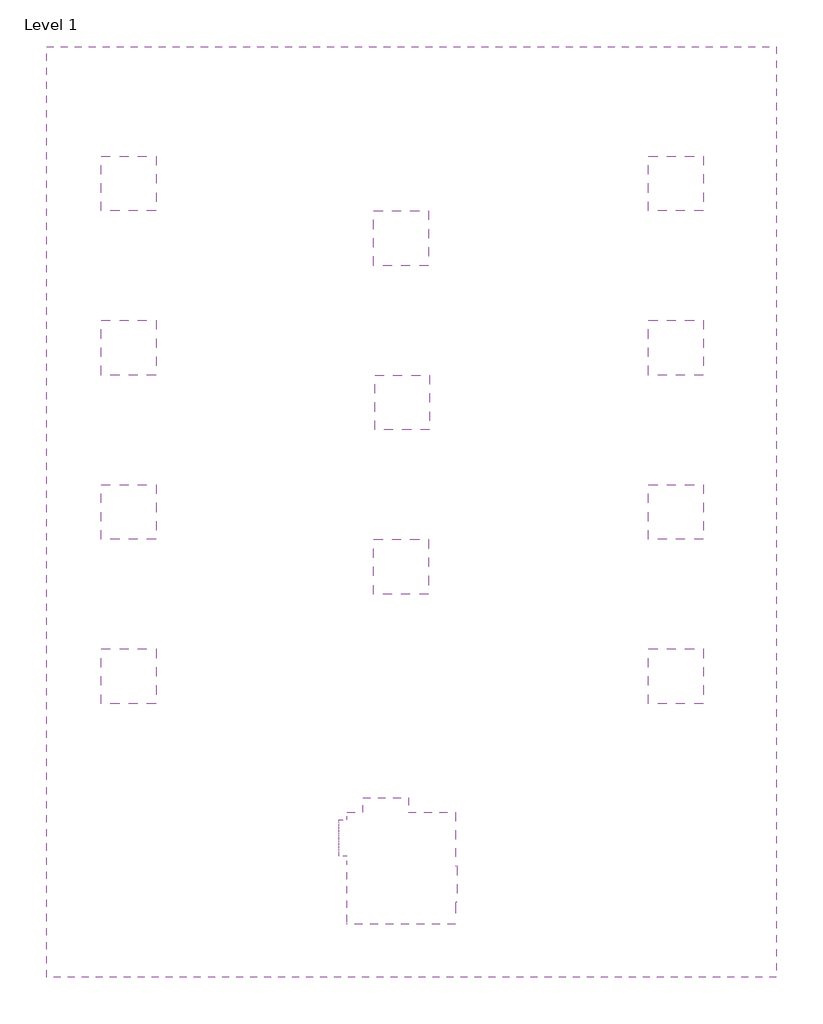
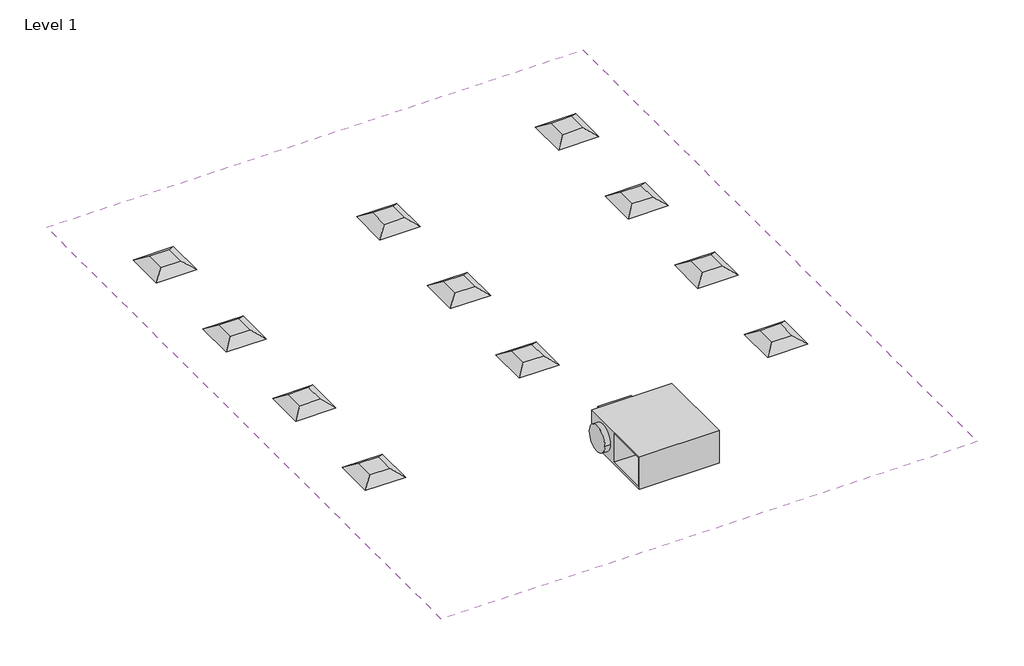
# One storey: 11 air terminals, 1 covering, 1 proxy.
"""IFC4 building model written with IfcOpenShell, lengths in millimetres."""

import ifcopenshell
import ifcopenshell.guid

model = None  # the IFC model being written
_history = None  # IfcOwnerHistory: only IFC2X3 demands one
_inside = {}  # id of a spatial element -> (the spatial element, [elements in it])
_under = {}  # id of a project, library or spatial element -> (it, [spatial elements below it])
_declared = {}  # id of a project -> (the project, [libraries it declares])
_typed = {}  # id of a type object -> (the type object, [elements of that type])
_made_of = {}  # id of a material, layer set ... -> (it, [elements and type objects made of it])


def new_model(schema):
    """Start an empty IFC model of exactly this schema.

    Asked for "IFC4X3", IfcOpenShell would pick the latest addendum, in which some entities
    have other attributes; the version numbers below select the first issue.
    IFC2X3 requires an IfcOwnerHistory on every rooted entity: one is made here for all.
    """
    global model, _history
    if schema == "IFC4X3":
        model = ifcopenshell.file(schema_version=(4, 3, 0, 0))
    else:
        model = ifcopenshell.file(schema=schema)
    _inside.clear()
    _under.clear()
    _declared.clear()
    _typed.clear()
    _made_of.clear()
    _history = None
    if model.schema == "IFC2X3":
        org = make("IfcOrganization", Name="unknown")
        user = make(
            "IfcPersonAndOrganization",
            ThePerson=make("IfcPerson", FamilyName="unknown"),
            TheOrganization=org,
        )
        app = make(
            "IfcApplication",
            ApplicationDeveloper=org,
            Version="unknown",
            ApplicationFullName="unknown",
            ApplicationIdentifier="unknown",
        )
        _history = make(
            "IfcOwnerHistory",
            OwningUser=user,
            OwningApplication=app,
            ChangeAction="ADDED",
            CreationDate=0,
        )
    return model


def make(cls, **values):
    """One entity of the class cls with the attributes given. An attribute that is None is left unset."""
    return model.create_entity(
        cls, **{name: value for name, value in values.items() if value is not None}
    )


def rooted(cls, **values):
    """An entity with a GlobalId (a new one), such as an element, a storey or a relation."""
    return make(cls, GlobalId=ifcopenshell.guid.new(), OwnerHistory=_history, **values)


def si_unit(unit_type, name, prefix=None):
    """IfcSIUnit, for example si_unit("LENGTHUNIT", "METRE", prefix="MILLI")."""
    return make("IfcSIUnit", UnitType=unit_type, Prefix=prefix, Name=name)


def assignment(units):
    """IfcUnitAssignment: the units of a project."""
    return None if units is None else make("IfcUnitAssignment", Units=units)


def point(xyz):
    """IfcCartesianPoint."""
    return None if xyz is None else make("IfcCartesianPoint", Coordinates=xyz)


def direction(xyz):
    """IfcDirection."""
    return None if xyz is None else make("IfcDirection", DirectionRatios=xyz)


def frame(location, z_axis=None, x_axis=None):
    """IfcAxis2Placement3D, a coordinate frame: its origin and axes. An axis left out is left unset."""
    return make(
        "IfcAxis2Placement3D",
        Location=point(location),
        Axis=direction(z_axis),
        RefDirection=direction(x_axis),
    )


def frame_2d(location, x_axis=None):
    """IfcAxis2Placement2D, a coordinate frame in the plane: its origin and x axis."""
    return make(
        "IfcAxis2Placement2D", Location=point(location), RefDirection=direction(x_axis)
    )


def origin():
    """The frame at (0, 0, 0) with its axes left unset."""
    return frame((0.0, 0.0, 0.0))


def place(relative_to, where):
    """IfcLocalPlacement: puts the frame where relative to a parent placement (None: the world)."""
    return make(
        "IfcLocalPlacement", PlacementRelTo=relative_to, RelativePlacement=where
    )


def context(
    kind, dimensions, precision=None, world=None, true_north=None, identifier=None
):
    """IfcGeometricRepresentationContext, for example the 3D "Model" context."""
    return make(
        "IfcGeometricRepresentationContext",
        ContextIdentifier=identifier,
        ContextType=kind,
        CoordinateSpaceDimension=dimensions,
        Precision=precision,
        WorldCoordinateSystem=world,
        TrueNorth=true_north,
    )


def project(units=None, contexts=None):
    """IfcProject with its units and contexts."""
    return rooted(
        "IfcProject",
        Name="project",
        RepresentationContexts=contexts,
        UnitsInContext=assignment(units),
    )


def spatial(cls, under=None, at=None, **own):
    """A site, building, storey or space (cls), placed at a placement, below another one or the project."""
    s = rooted(cls, ObjectPlacement=at, **own)
    if under is not None:
        _under.setdefault(under.id(), (under, []))[1].append(s)
    return s


def polyline(points):
    """IfcPolyline through the points."""
    return make("IfcPolyline", Points=[point(p) for p in points])


def circle_curve(where, radius):
    """IfcCircle in the frame where."""
    return make("IfcCircle", Position=where, Radius=radius)


def trimmed(basis, trim1, trim2, sense, master):
    """IfcTrimmedCurve: the piece of a basis curve between two trims."""
    return make(
        "IfcTrimmedCurve",
        BasisCurve=basis,
        Trim1=trim1,
        Trim2=trim2,
        SenseAgreement=sense,
        MasterRepresentation=master,
    )


def segment(curve, same_sense, transition):
    """IfcCompositeCurveSegment."""
    return make(
        "IfcCompositeCurveSegment",
        Transition=transition,
        SameSense=same_sense,
        ParentCurve=curve,
    )


def composite_curve(segments, self_intersect=None):
    """IfcCompositeCurve: segments joined end to end."""
    return make("IfcCompositeCurve", Segments=segments, SelfIntersect=self_intersect)


def outline(outer, holes=None, kind="AREA"):
    """IfcArbitraryClosedProfileDef: a profile drawn as a closed curve; with holes, ...WithVoids."""
    if holes is None:
        return make("IfcArbitraryClosedProfileDef", ProfileType=kind, OuterCurve=outer)
    return make(
        "IfcArbitraryProfileDefWithVoids",
        ProfileType=kind,
        OuterCurve=outer,
        InnerCurves=holes,
    )


def extrude(swept, where, along, depth):
    """IfcExtrudedAreaSolid: the profile swept, set in the frame where, extruded along a direction by depth."""
    return make(
        "IfcExtrudedAreaSolid",
        SweptArea=swept,
        Position=where,
        ExtrudedDirection=direction(along),
        Depth=depth,
    )


def faces_of(points, faces, orient=None, outer=None):
    """IfcFace entities. A face is a list of loops; a loop is a list of indices into points, from 0.

    orient and outer hold one flag for each loop. By default every Orientation is true, the
    first loop of a face is its IfcFaceOuterBound and the others are IfcFaceBound.
    """
    made = []
    for i, loops in enumerate(faces):
        bounds = []
        for j, loop in enumerate(loops):
            is_outer = j == 0 if outer is None else outer[i][j]
            bounds.append(
                make(
                    "IfcFaceOuterBound" if is_outer else "IfcFaceBound",
                    Bound=make("IfcPolyLoop", Polygon=[points[k] for k in loop]),
                    Orientation=True if orient is None else orient[i][j],
                )
            )
        made.append(make("IfcFace", Bounds=bounds))
    return made


def faceted_brep(points, faces, orient=None, outer=None, voids=None):
    """IfcFacetedBrep: a solid bounded by flat faces; with voids (closed shells), ...WithVoids."""
    shared = [point(p) for p in points]
    hull = make("IfcClosedShell", CfsFaces=faces_of(shared, faces, orient, outer))
    if voids is None:
        return make("IfcFacetedBrep", Outer=hull)
    return make(
        "IfcFacetedBrepWithVoids",
        Outer=hull,
        Voids=[
            make(cls, CfsFaces=faces_of(shared, fs, o, b)) for cls, fs, o, b in voids
        ],
    )


def shape(context_of_items, identifier, shape_type, items):
    """IfcShapeRepresentation: the items that make up one representation, for example the "Body"."""
    return make(
        "IfcShapeRepresentation",
        ContextOfItems=context_of_items,
        RepresentationIdentifier=identifier,
        RepresentationType=shape_type,
        Items=items,
    )


def source(mapping_origin, context_of_items, identifier, shape_type, items):
    """IfcRepresentationMap: a shape defined once, which mapped items show again and again."""
    return make(
        "IfcRepresentationMap",
        MappingOrigin=mapping_origin,
        MappedRepresentation=shape(context_of_items, identifier, shape_type, items),
    )


def transform(
    local_origin,
    x_axis=None,
    y_axis=None,
    z_axis=None,
    scale=None,
    scale2=None,
    scale3=None,
    uniform=True,
):
    """IfcCartesianTransformationOperator3D, or its non-uniform kind. x_axis, y_axis, z_axis: its Axis1, 2, 3."""
    if uniform:
        return make(
            "IfcCartesianTransformationOperator3D",
            Axis1=direction(x_axis),
            Axis2=direction(y_axis),
            LocalOrigin=point(local_origin),
            Scale=scale,
            Axis3=direction(z_axis),
        )
    return make(
        "IfcCartesianTransformationOperator3DnonUniform",
        Axis1=direction(x_axis),
        Axis2=direction(y_axis),
        LocalOrigin=point(local_origin),
        Scale=scale,
        Axis3=direction(z_axis),
        Scale2=scale2,
        Scale3=scale3,
    )


def mapped(mapping_source, mapping_target):
    """IfcMappedItem: shows the shape of a source again, moved by a transform."""
    return make(
        "IfcMappedItem", MappingSource=mapping_source, MappingTarget=mapping_target
    )


def made_of(thing, what):
    """Note that an element or type object is made of a material, layer set ...; save() writes the relation."""
    if what is not None:
        _made_of.setdefault(what.id(), (what, []))[1].append(thing)
    return thing


def element(
    cls,
    number,
    at=None,
    inside=None,
    cuts=None,
    type_object=None,
    material=None,
    context=None,
    identifier="Body",
    shape_type=None,
    held_by="IfcProductDefinitionShape",
    body=None,
    shapes=None,
    **own,
):
    """One element of the class cls, such as IfcWall. Its Tag is "e" and its number.

    at: its placement. inside: the storey or other place that contains it. cuts: it is an
    opening in that element (IfcRelVoidsElement). A single representation is given by context,
    identifier, shape_type and body (its items); several are given by shapes. held_by: the class
    of the entity that holds the representations. save() writes the other relations.
    """
    e = rooted(cls, Tag="e%d" % number, ObjectPlacement=at, **own)
    if body is not None:
        shapes = [shape(context, identifier, shape_type, body)]
    if shapes is not None:
        e.Representation = make(held_by, Representations=shapes)
    if inside is not None:
        _inside.setdefault(inside.id(), (inside, []))[1].append(e)
    if cuts is not None:
        rooted(
            "IfcRelVoidsElement", RelatingBuildingElement=cuts, RelatedOpeningElement=e
        )
    if type_object is not None:
        _typed.setdefault(type_object.id(), (type_object, []))[1].append(e)
    return made_of(e, material)


def aggregate(whole, parts):
    """IfcRelAggregates: a whole, such as a stair, and the parts it consists of."""
    return rooted("IfcRelAggregates", RelatingObject=whole, RelatedObjects=parts)


def save(model, path):
    """Write the relations noted so far, then the file.

    IfcRelAggregates (storeys below a building ...), IfcRelContainedInSpatialStructure (elements
    in a storey), IfcRelDefinesByType, IfcRelAssociatesMaterial and IfcRelDeclares: one each for
    every whole, place, type object, material and project.
    """
    for whole, parts in _under.values():
        aggregate(whole, parts)
    for where, things in _inside.values():
        rooted(
            "IfcRelContainedInSpatialStructure",
            RelatedElements=things,
            RelatingStructure=where,
        )
    for kind, things in _typed.values():
        rooted("IfcRelDefinesByType", RelatedObjects=things, RelatingType=kind)
    for what, things in _made_of.values():
        rooted("IfcRelAssociatesMaterial", RelatedObjects=things, RelatingMaterial=what)
    for by, libraries in _declared.values():
        rooted("IfcRelDeclares", RelatingContext=by, RelatedDefinitions=libraries)
    model.write(path)


def m_return_diffuser_600_x_600_face_300_x_300_connection_ff221211(model_context):
    return source(origin(), model_context, "Body", "Brep", [
        faceted_brep([(150.0, 150.0, 101.6), (-150.0, 150.0, 101.6), (-150.0, -150.0, 101.6), (150.0, -150.0, 101.6), (300.0, 300.0, 0.0), (300.0, -300.0, 0.0), (-300.0, -300.0, 0.0), (-300.0, 300.0, 0.0)], [[[0, 1, 2, 3]], [[4, 5, 6, 7]], [[4, 7, 1, 0]], [[7, 6, 2, 1]], [[6, 5, 3, 2]], [[5, 4, 0, 3]]]),
    ])


def m_vav_unit_parallel_fan_powered_size_6_400mm_inlet_587ab7bd(model_context):
    return source(origin(), model_context, "Body", "SolidModel", [
        extrude(outline(polyline([(610.0, 27.5), (610.0, -372.5), (519.1125, -372.5), (519.1125, 27.5), (610.0, 27.5)])), frame((0.0, 0.0, -175.0), z_axis=(0.0, 0.0, 1.0), x_axis=(1.0, 0.0, 0.0)), (0.0, 0.0, 1.0), 350.0),
        extrude(outline(polyline([(80.0, 612.5), (-420.0, 612.5), (-420.0, 772.5), (80.0, 772.5), (80.0, 612.5)])), frame((0.0, 0.0, -150.0), z_axis=(0.0, 0.0, 1.0), x_axis=(1.0, 0.0, 0.0)), (0.0, 0.0, 1.0), 300.0),
        extrude(outline(composite_curve([segment(trimmed(circle_curve(frame_2d((332.5, 0.0)), 200.0), [point((132.5, 0.0))], [point((532.5, 0.0))], False, "CARTESIAN"), True, "CONTINUOUS"), segment(trimmed(circle_curve(frame_2d((332.5, 0.0)), 200.0), [point((532.5, 0.0))], [point((132.5, 0.0))], False, "CARTESIAN"), True, "CONTINUOUS")], self_intersect=False)), frame((-680.0, 0.0, 0.0), z_axis=(1.0, 0.0, 0.0), x_axis=(0.0, 1.0, 0.0)), (0.0, 0.0, 1.0), 85.0),
        faceted_brep([(595.0, 612.5, 255.0), (-595.0, 612.5, 255.0), (-595.0, -612.5, 255.0), (595.0, -612.5, 255.0), (595.0, 612.5, -255.0), (595.0, -612.5, -255.0), (-595.0, -612.5, -255.0), (-595.0, 612.5, -255.0), (-595.0, -587.5, 222.5), (-595.0, -587.5, -222.5), (-595.0, 37.5, -222.5), (-595.0, 37.5, 222.5), (0.0, -587.5, 222.5), (0.0, 37.5, 222.5), (0.0, 37.5, -222.5), (0.0, -587.5, -222.5)], [[[0, 1, 2, 3]], [[4, 5, 6, 7]], [[1, 0, 4, 7]], [[2, 1, 7, 6], [8, 9, 10, 11]], [[3, 2, 6, 5]], [[0, 3, 5, 4]], [[12, 13, 14, 15]], [[12, 15, 9, 8]], [[15, 14, 10, 9]], [[14, 13, 11, 10]], [[13, 12, 8, 11]]]),
    ])


model = new_model("IFC4")

# Units and contexts
model_context = context("Model", 3, world=origin())
ifc_project = project(units=[si_unit("LENGTHUNIT", "METRE", prefix="MILLI")], contexts=[model_context])

# Site, building, storey
site = spatial("IfcSite", under=ifc_project)
building = spatial("IfcBuilding", under=site)
storey = spatial("IfcBuildingStorey", under=building, Name="Level 1", Elevation=0.0)

# Air terminals
placement = place(None, origin())
m_return_diffuser_600_x_600_face_300_x_300_connection_shape = m_return_diffuser_600_x_600_face_300_x_300_connection_ff221211(model_context)
element("IfcAirTerminal", 1, ObjectType="M_Return Diffuser : 600 x 600 Face 300 x 300 Connection", at=placement, inside=storey, context=model_context, shape_type="MappedRepresentation", body=[
    mapped(m_return_diffuser_600_x_600_face_300_x_300_connection_shape, transform((-13782.5303668, 3995.7829227, 2400.0), x_axis=(1.0, 0.0, 0.0), y_axis=(0.0, 1.0, 0.0), z_axis=(0.0, 0.0, 1.0))),
])
element("IfcAirTerminal", 2, ObjectType="M_Return Diffuser : 600 x 600 Face 300 x 300 Connection", at=placement, inside=storey, context=model_context, shape_type="MappedRepresentation", body=[
    mapped(m_return_diffuser_600_x_600_face_300_x_300_connection_shape, transform((-13782.5303668, 2195.7829227, 2400.0), x_axis=(1.0, 0.0, 0.0), y_axis=(0.0, 1.0, 0.0), z_axis=(0.0, 0.0, 1.0))),
])
element("IfcAirTerminal", 3, ObjectType="M_Return Diffuser : 600 x 600 Face 300 x 300 Connection", at=placement, inside=storey, context=model_context, shape_type="MappedRepresentation", body=[
    mapped(m_return_diffuser_600_x_600_face_300_x_300_connection_shape, transform((-13782.5303668, 395.7829227, 2400.0), x_axis=(1.0, 0.0, 0.0), y_axis=(0.0, 1.0, 0.0), z_axis=(0.0, 0.0, 1.0))),
])
element("IfcAirTerminal", 4, ObjectType="M_Return Diffuser : 600 x 600 Face 300 x 300 Connection", at=placement, inside=storey, context=model_context, shape_type="MappedRepresentation", body=[
    mapped(m_return_diffuser_600_x_600_face_300_x_300_connection_shape, transform((-13782.5303668, -1404.2170773, 2400.0), x_axis=(1.0, 0.0, 0.0), y_axis=(0.0, 1.0, 0.0), z_axis=(0.0, 0.0, 1.0))),
])
element("IfcAirTerminal", 5, ObjectType="M_Return Diffuser : 600 x 600 Face 300 x 300 Connection", at=placement, inside=storey, context=model_context, shape_type="MappedRepresentation", body=[
    mapped(m_return_diffuser_600_x_600_face_300_x_300_connection_shape, transform((-10782.5303668, 1595.7829227, 2400.0), x_axis=(1.0, 0.0, 0.0), y_axis=(0.0, 1.0, 0.0), z_axis=(0.0, 0.0, 1.0))),
])
element("IfcAirTerminal", 6, ObjectType="M_Supply Diffuser : 600 x 600 Face 300 x 300 Connection", at=placement, inside=storey, context=model_context, shape_type="MappedRepresentation", body=[
    mapped(m_return_diffuser_600_x_600_face_300_x_300_connection_shape, transform((-7782.5303668, 3995.7829227, 2400.0), x_axis=(1.0, 0.0, 0.0), y_axis=(0.0, 1.0, 0.0), z_axis=(0.0, 0.0, 1.0))),
])
element("IfcAirTerminal", 7, ObjectType="M_Supply Diffuser : 600 x 600 Face 300 x 300 Connection", at=placement, inside=storey, context=model_context, shape_type="MappedRepresentation", body=[
    mapped(m_return_diffuser_600_x_600_face_300_x_300_connection_shape, transform((-7782.5303668, 2195.7829227, 2400.0), x_axis=(1.0, 0.0, 0.0), y_axis=(0.0, 1.0, 0.0), z_axis=(0.0, 0.0, 1.0))),
])
element("IfcAirTerminal", 8, ObjectType="M_Supply Diffuser : 600 x 600 Face 300 x 300 Connection", at=placement, inside=storey, context=model_context, shape_type="MappedRepresentation", body=[
    mapped(m_return_diffuser_600_x_600_face_300_x_300_connection_shape, transform((-7782.5303668, 395.7829227, 2400.0), x_axis=(1.0, 0.0, 0.0), y_axis=(0.0, 1.0, 0.0), z_axis=(0.0, 0.0, 1.0))),
])
element("IfcAirTerminal", 9, ObjectType="M_Supply Diffuser : 600 x 600 Face 300 x 300 Connection", at=placement, inside=storey, context=model_context, shape_type="MappedRepresentation", body=[
    mapped(m_return_diffuser_600_x_600_face_300_x_300_connection_shape, transform((-7782.5303668, -1404.2170773, 2400.0), x_axis=(1.0, 0.0, 0.0), y_axis=(0.0, 1.0, 0.0), z_axis=(0.0, 0.0, 1.0))),
])
element("IfcAirTerminal", 10, ObjectType="M_Supply Diffuser : 600 x 600 Face 300 x 300 Connection", at=placement, inside=storey, context=model_context, shape_type="MappedRepresentation", body=[
    mapped(m_return_diffuser_600_x_600_face_300_x_300_connection_shape, transform((-10795.0303668, -204.2170773, 2400.0), x_axis=(1.0, 0.0, 0.0), y_axis=(0.0, 1.0, 0.0), z_axis=(0.0, 0.0, 1.0))),
])
element("IfcAirTerminal", 11, ObjectType="M_Supply Diffuser : 600 x 600 Face 300 x 300 Connection", at=placement, inside=storey, context=model_context, shape_type="MappedRepresentation", body=[
    mapped(m_return_diffuser_600_x_600_face_300_x_300_connection_shape, transform((-10795.0303668, 3395.7829227, 2400.0), x_axis=(1.0, 0.0, 0.0), y_axis=(0.0, 1.0, 0.0), z_axis=(0.0, 0.0, 1.0))),
])

# Proxy
m_vav_unit_parallel_fan_powered_size_6_400mm_inlet_shape = m_vav_unit_parallel_fan_powered_size_6_400mm_inlet_587ab7bd(model_context)
element("IfcBuildingElementProxy", 12, Name="M_VAV Unit - Parallel Fan Powered : Size 6 - 400mm Inlet", ObjectType="M_VAV Unit - Parallel Fan Powered : Size 6 - 400mm Inlet", at=placement, inside=storey, context=model_context, shape_type="MappedRepresentation", body=[
    mapped(m_vav_unit_parallel_fan_powered_size_6_400mm_inlet_shape, transform((-10795.0303668, -3509.2170773, 3200.0), x_axis=(1.0, 0.0, 0.0), y_axis=(0.0, 1.0, 0.0), z_axis=(0.0, 0.0, 1.0))),
])

# Covering
element("IfcCovering", 13, ObjectType="600 x 600mm Grid", at=placement, inside=storey, context=model_context, shape_type="SweptSolid", body=[
    extrude(outline(polyline([(-6682.5303668, 5495.7829227), (-6682.5303668, -4704.2170773), (-14682.5303668, -4704.2170773), (-14682.5303668, 5495.7829227), (-6682.5303668, 5495.7829227)])), frame((0.0, 0.0, 2400.0), z_axis=(0.0, 0.0, 1.0), x_axis=(1.0, 0.0, 0.0)), (0.0, 0.0, 1.0), 52.0),
])

save(model, "model.ifc")
